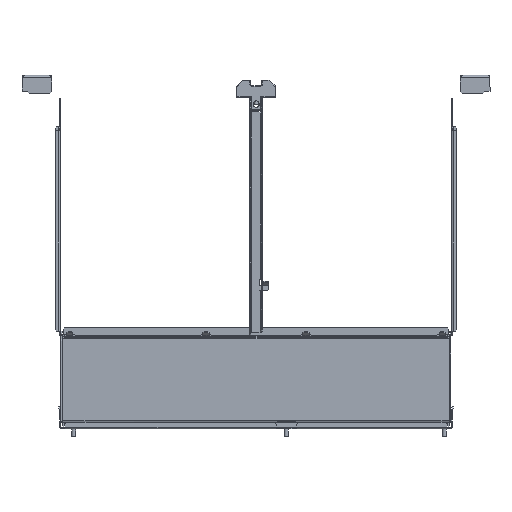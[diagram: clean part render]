
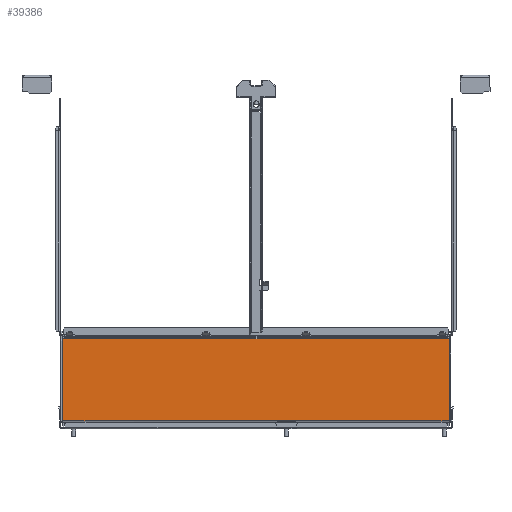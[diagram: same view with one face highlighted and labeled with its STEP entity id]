
A CAD part, front view. The second image highlights one B-rep face of the part: STEP entity #39386.
In plain terms, the highlighted planar face has unit normal (0, -1, 0).
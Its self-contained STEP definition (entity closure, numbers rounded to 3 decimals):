
#25146=CARTESIAN_POINT(' ',(-245.,-95.,0.6));
#25147=VERTEX_POINT(' ',#25146);
#28251=CARTESIAN_POINT(' ',(27.,-95.,0.6));
#28256=DIRECTION(' ',(-1.,0.,0.));
#28261=VECTOR(' ',#28256,1.);
#28266=LINE('',#28251,#28261);
#28271=CARTESIAN_POINT(' ',(27.,-95.,0.6));
#28272=VERTEX_POINT(' ',#28271);
#28276=EDGE_CURVE(' ',#28272,#25147,#28266,.T.);
#28396=CARTESIAN_POINT(' ',(50.,-95.,0.6));
#28397=VERTEX_POINT(' ',#28396);
#28451=CARTESIAN_POINT(' ',(245.,-95.,0.6));
#28452=VERTEX_POINT(' ',#28451);
#28466=CARTESIAN_POINT(' ',(245.,-95.,0.6));
#28471=DIRECTION(' ',(-1.,0.,0.));
#28476=VECTOR(' ',#28471,1.);
#28481=LINE('',#28466,#28476);
#28486=EDGE_CURVE(' ',#28452,#28397,#28481,.T.);
#29586=CARTESIAN_POINT(' ',(-245.,-95.,0.6));
#29591=DIRECTION(' ',(0.,0.,1.));
#29596=VECTOR(' ',#29591,1.);
#29601=LINE('',#29586,#29596);
#29606=CARTESIAN_POINT(' ',(-245.,-95.,104.4));
#29607=VERTEX_POINT(' ',#29606);
#29611=EDGE_CURVE(' ',#25147,#29607,#29601,.T.);
#39171=DIRECTION(' ',(-0.,-1.,0.));
#39176=CARTESIAN_POINT(' ',(-245.,-95.,0.6));
#39181=DIRECTION(' ',(1.,0.,-0.));
#39186=AXIS2_PLACEMENT_3D(' ',#39176,#39171,#39181);
#39191=PLANE('NONE',#39186);
#39196=CARTESIAN_POINT(' ',(27.,-95.,1.));
#39201=DIRECTION(' ',(0.,0.,-1.));
#39206=VECTOR(' ',#39201,1.);
#39211=LINE('',#39196,#39206);
#39216=CARTESIAN_POINT(' ',(27.,-95.,1.));
#39217=VERTEX_POINT(' ',#39216);
#39221=EDGE_CURVE(' ',#39217,#28272,#39211,.T.);
#39226=ORIENTED_EDGE(' ',*,*,#39221,.F.);
#39231=CARTESIAN_POINT(' ',(50.,-95.,1.));
#39236=DIRECTION(' ',(-1.,0.,0.));
#39241=VECTOR(' ',#39236,1.);
#39246=LINE('',#39231,#39241);
#39251=CARTESIAN_POINT(' ',(50.,-95.,1.));
#39252=VERTEX_POINT(' ',#39251);
#39256=EDGE_CURVE(' ',#39252,#39217,#39246,.T.);
#39261=ORIENTED_EDGE(' ',*,*,#39256,.F.);
#39266=CARTESIAN_POINT(' ',(50.,-95.,1.));
#39271=DIRECTION(' ',(0.,0.,-1.));
#39276=VECTOR(' ',#39271,1.);
#39281=LINE('',#39266,#39276);
#39286=EDGE_CURVE(' ',#39252,#28397,#39281,.T.);
#39291=ORIENTED_EDGE(' ',*,*,#39286,.T.);
#39296=ORIENTED_EDGE(' ',*,*,#28486,.F.);
#39301=CARTESIAN_POINT(' ',(245.,-95.,0.6));
#39306=DIRECTION(' ',(0.,0.,1.));
#39311=VECTOR(' ',#39306,1.);
#39316=LINE('',#39301,#39311);
#39321=CARTESIAN_POINT(' ',(245.,-95.,104.4));
#39322=VERTEX_POINT(' ',#39321);
#39326=EDGE_CURVE(' ',#28452,#39322,#39316,.T.);
#39331=ORIENTED_EDGE(' ',*,*,#39326,.T.);
#39336=CARTESIAN_POINT(' ',(245.,-95.,104.4));
#39341=DIRECTION(' ',(-1.,0.,0.));
#39346=VECTOR(' ',#39341,1.);
#39351=LINE('',#39336,#39346);
#39356=EDGE_CURVE(' ',#39322,#29607,#39351,.T.);
#39361=ORIENTED_EDGE(' ',*,*,#39356,.T.);
#39366=ORIENTED_EDGE(' ',*,*,#29611,.F.);
#39371=ORIENTED_EDGE(' ',*,*,#28276,.F.);
#39376=EDGE_LOOP(' ',(#39226,#39261,#39291,#39296,#39331,#39361,#39366,#39371));
#39381=FACE_OUTER_BOUND(' ',#39376,.T.);
#39386=ADVANCED_FACE('NONE',(#39381),#39191,.T.);
